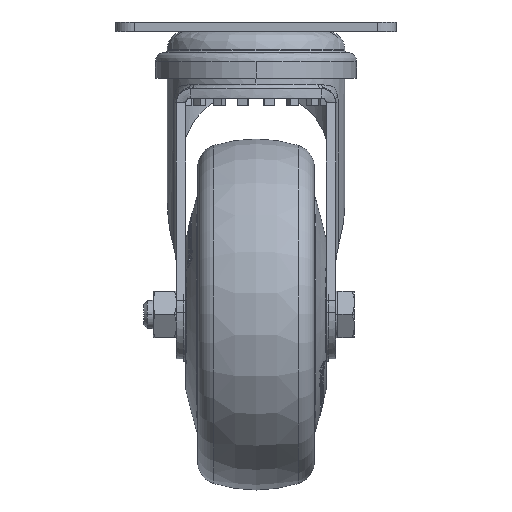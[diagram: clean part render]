
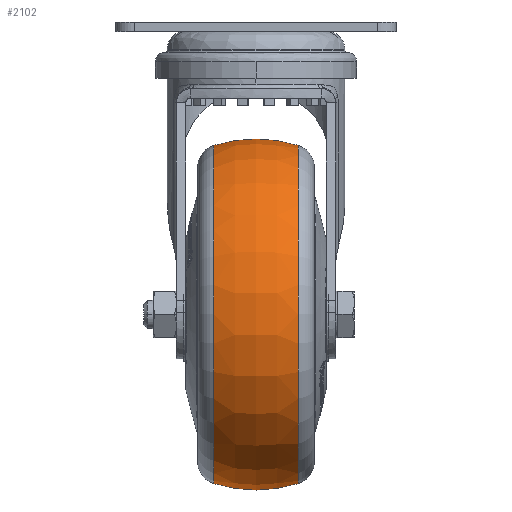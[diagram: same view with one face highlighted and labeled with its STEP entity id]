
A CAD part, top view. The second image highlights one B-rep face of the part: STEP entity #2102.
In plain terms, the highlighted toroidal (fillet/blend) face has major radius 7.5 mm and minor radius 30 mm.
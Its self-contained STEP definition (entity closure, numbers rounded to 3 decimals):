
#2102 = ADVANCED_FACE ( 'NONE', ( #61073 ), #61081, .T. ) ;
#6281 = EDGE_CURVE ( 'NONE', #67593, #67608, #20387, .T. ) ;
#6283 = EDGE_CURVE ( 'NONE', #67593, #67594, #20391, .T. ) ;
#6285 = EDGE_CURVE ( 'NONE', #67594, #67763, #20395, .T. ) ;
#6288 = EDGE_CURVE ( 'NONE', #67608, #67763, #20401, .T. ) ;
#8914 = CARTESIAN_POINT ( 'NONE',  ( 9., 0., 36.118 ) ) ;
#8915 = CARTESIAN_POINT ( 'NONE',  ( 9., 0., -36.118 ) ) ;
#8929 = CARTESIAN_POINT ( 'NONE',  ( -9., 0., 36.118 ) ) ;
#9084 = CARTESIAN_POINT ( 'NONE',  ( -9., 0., -36.118 ) ) ;
#20387 = CIRCLE ( 'NONE', #42635, 30. ) ;
#20391 = CIRCLE ( 'NONE', #42637, 36.118 ) ;
#20395 = CIRCLE ( 'NONE', #42633, 30. ) ;
#20401 = CIRCLE ( 'NONE', #42641, 36.118 ) ;
#27711 = CARTESIAN_POINT ( 'NONE',  ( 0., 0., 7.5 ) ) ;
#27715 = CARTESIAN_POINT ( 'NONE',  ( 9., 0., 0. ) ) ;
#27718 = DIRECTION ( 'NONE',  ( 0., -1., 0. ) ) ;
#27719 = DIRECTION ( 'NONE',  ( 0., 0., -1. ) ) ;
#27721 = DIRECTION ( 'NONE',  ( -1., 0., 0. ) ) ;
#27722 = DIRECTION ( 'NONE',  ( 0., 0., 1. ) ) ;
#27723 = CARTESIAN_POINT ( 'NONE',  ( 0., 0., -7.5 ) ) ;
#27724 = CARTESIAN_POINT ( 'NONE',  ( -9., 0., 0. ) ) ;
#27725 = DIRECTION ( 'NONE',  ( 0., 1., 0. ) ) ;
#27726 = DIRECTION ( 'NONE',  ( 0., 0., 1. ) ) ;
#27730 = DIRECTION ( 'NONE',  ( -1., 0., 0. ) ) ;
#27731 = DIRECTION ( 'NONE',  ( 0., 0., 1. ) ) ;
#42633 = AXIS2_PLACEMENT_3D ( 'NONE', #27723, #27725, #27726 ) ;
#42635 = AXIS2_PLACEMENT_3D ( 'NONE', #27711, #27718, #27719 ) ;
#42637 = AXIS2_PLACEMENT_3D ( 'NONE', #27715, #27721, #27722 ) ;
#42641 = AXIS2_PLACEMENT_3D ( 'NONE', #27724, #27730, #27731 ) ;
#58954 = EDGE_LOOP ( 'NONE', ( #59189, #59188, #59187, #59186 ) ) ;
#59186 = ORIENTED_EDGE ( 'NONE', *, *, #6281, .F. ) ;
#59187 = ORIENTED_EDGE ( 'NONE', *, *, #6288, .F. ) ;
#59188 = ORIENTED_EDGE ( 'NONE', *, *, #6285, .T. ) ;
#59189 = ORIENTED_EDGE ( 'NONE', *, *, #6283, .T. ) ;
#60406 = DIRECTION ( 'NONE',  ( -1., 0., 0. ) ) ;
#60407 = CARTESIAN_POINT ( 'NONE',  ( 0., 0., 0. ) ) ;
#60416 = DIRECTION ( 'NONE',  ( 0., 0., 1. ) ) ;
#61073 = FACE_OUTER_BOUND ( 'NONE', #58954, .T. ) ;
#61081 = TOROIDAL_SURFACE ( 'NONE', #62103, 7.5, 30. ) ;
#62103 = AXIS2_PLACEMENT_3D ( 'NONE', #60407, #60406, #60416 ) ;
#67593 = VERTEX_POINT ( 'NONE', #8914 ) ;
#67594 = VERTEX_POINT ( 'NONE', #8915 ) ;
#67608 = VERTEX_POINT ( 'NONE', #8929 ) ;
#67763 = VERTEX_POINT ( 'NONE', #9084 ) ;
